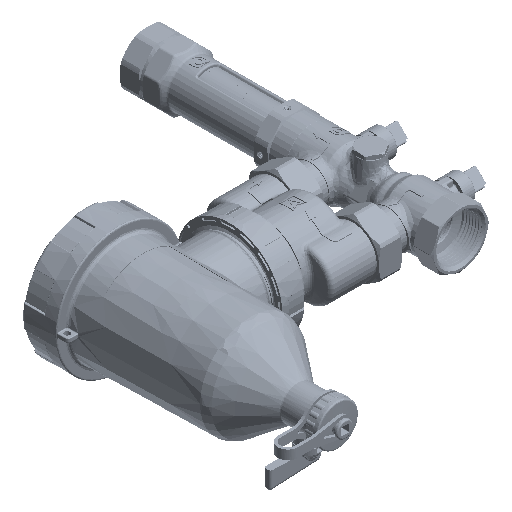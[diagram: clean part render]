
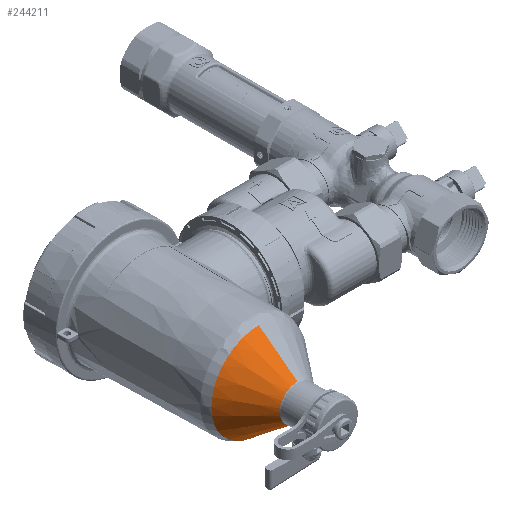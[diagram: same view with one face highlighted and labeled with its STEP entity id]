
A CAD part, isometric view. The second image highlights one B-rep face of the part: STEP entity #244211.
In plain terms, the highlighted conical face has half-angle 37.586 degrees and reference radius 33.325 mm.
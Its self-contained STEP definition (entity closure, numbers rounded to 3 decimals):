
#26550 = CARTESIAN_POINT ( 'NONE',  ( 0., -95.73, 0. ) ) ;
#26788 = ORIENTED_EDGE ( 'NONE', *, *, #421651, .T. ) ;
#29699 = CARTESIAN_POINT ( 'NONE',  ( 1.359, -93.652, 13.992 ) ) ;
#30503 = CARTESIAN_POINT ( 'NONE',  ( 12.458, -95.73, 0. ) ) ;
#33169 = CARTESIAN_POINT ( 'NONE',  ( 0., -68.62, 0. ) ) ;
#40386 = CARTESIAN_POINT ( 'NONE',  ( 4.533, -94.887, 12.297 ) ) ;
#44654 = CARTESIAN_POINT ( 'NONE',  ( 4.547, -94.896, 12.285 ) ) ;
#49025 = CARTESIAN_POINT ( 'NONE',  ( 4.555, -94.901, 12.278 ) ) ;
#50860 = EDGE_CURVE ( 'NONE', #116147, #99939, #206271, .T. ) ;
#60799 = CIRCLE ( 'NONE', #312018, 33.325 ) ;
#64501 = ORIENTED_EDGE ( 'NONE', *, *, #313948, .F. ) ;
#72141 = CARTESIAN_POINT ( 'NONE',  ( 33.325, -68.62, 0. ) ) ;
#75282 = CARTESIAN_POINT ( 'NONE',  ( 3.253, -94.204, 13.238 ) ) ;
#81725 = CARTESIAN_POINT ( 'NONE',  ( 2.232, -93.841, 13.734 ) ) ;
#83908 = DIRECTION ( 'NONE',  ( 0., 1., 0. ) ) ;
#94463 = AXIS2_PLACEMENT_3D ( 'NONE', #221034, #314983, #349880 ) ;
#95187 = CARTESIAN_POINT ( 'NONE',  ( 1.643, -93.704, 13.921 ) ) ;
#99720 = DIRECTION ( 'NONE',  ( -1., 0., 0. ) ) ;
#99939 = VERTEX_POINT ( 'NONE', #30503 ) ;
#101644 = CARTESIAN_POINT ( 'NONE',  ( 0.572, -93.555, 14.123 ) ) ;
#101849 = CARTESIAN_POINT ( 'NONE',  ( 0., -95.73, 0. ) ) ;
#104084 = EDGE_CURVE ( 'NONE', #306704, #427058, #231521, .T. ) ;
#108054 = CARTESIAN_POINT ( 'NONE',  ( 4.292, -94.736, 12.507 ) ) ;
#110214 = CARTESIAN_POINT ( 'NONE',  ( 2.749, -94.008, 13.507 ) ) ;
#114489 = CARTESIAN_POINT ( 'NONE',  ( 3.149, -94.161, 13.298 ) ) ;
#115591 = AXIS2_PLACEMENT_3D ( 'NONE', #26550, #188165, #118317 ) ;
#116147 = VERTEX_POINT ( 'NONE', #161101 ) ;
#118317 = DIRECTION ( 'NONE',  ( -1., 0., 0. ) ) ;
#122271 = CIRCLE ( 'NONE', #94463, 33.325 ) ;
#133631 = DIRECTION ( 'NONE',  ( 0., 1., 0. ) ) ;
#133751 = ORIENTED_EDGE ( 'NONE', *, *, #50860, .T. ) ;
#134429 = CARTESIAN_POINT ( 'NONE',  ( 1.002, -93.6, 14.063 ) ) ;
#135616 = EDGE_CURVE ( 'NONE', #233347, #305827, #353959, .T. ) ;
#135896 = B_SPLINE_CURVE_WITH_KNOTS ( 'NONE', 3,
 ( #328824, #400802, #101644, #134429, #368044, #29699, #394353, #202066, #95187, #228467, #195612, #429317, #81725, #274007, #110214, #376637, #374484, #114489, #210630, #206310, #372322, #75282, #311108, #241304, #276148, #138697, #108054, #247778, #409366, #208497, #40386, #44654, #49025, #407199, #341640, #343833 ),
 .UNSPECIFIED., .F., .F.,
 ( 4, 2, 2, 1, 1, 2, 2, 2, 2, 1, 1, 1, 2, 2, 2, 2, 1, 1, 1, 2, 2, 4 ),
 ( 0., 0.125, 0.188, 0.219, 0.234, 0.242, 0.25, 0.375, 0.438, 0.469, 0.484, 0.492, 0.496, 0.5, 0.625, 0.687, 0.719, 0.734, 0.742, 0.746, 0.75, 1. ),
 .UNSPECIFIED. ) ;
#138697 = CARTESIAN_POINT ( 'NONE',  ( 4.13, -94.64, 12.64 ) ) ;
#138795 = VECTOR ( 'NONE', #296973, 1000. ) ;
#160797 = ORIENTED_EDGE ( 'NONE', *, *, #135616, .F. ) ;
#161101 = CARTESIAN_POINT ( 'NONE',  ( 5.619, -95.73, 11.118 ) ) ;
#161573 = EDGE_CURVE ( 'NONE', #305827, #213150, #122271, .T. ) ;
#175153 = CARTESIAN_POINT ( 'NONE',  ( 0., -93.54, 14.143 ) ) ;
#188165 = DIRECTION ( 'NONE',  ( 0., 1., 0. ) ) ;
#195612 = CARTESIAN_POINT ( 'NONE',  ( 1.697, -93.715, 13.905 ) ) ;
#202066 = CARTESIAN_POINT ( 'NONE',  ( 1.589, -93.694, 13.935 ) ) ;
#206271 = CIRCLE ( 'NONE', #115591, 12.458 ) ;
#206310 = CARTESIAN_POINT ( 'NONE',  ( 3.228, -94.194, 13.253 ) ) ;
#208497 = CARTESIAN_POINT ( 'NONE',  ( 4.513, -94.874, 12.315 ) ) ;
#210630 = CARTESIAN_POINT ( 'NONE',  ( 3.204, -94.184, 13.267 ) ) ;
#213150 = VERTEX_POINT ( 'NONE', #72141 ) ;
#221034 = CARTESIAN_POINT ( 'NONE',  ( 0., -68.62, 0. ) ) ;
#222448 = FACE_OUTER_BOUND ( 'NONE', #349655, .T. ) ;
#228467 = CARTESIAN_POINT ( 'NONE',  ( 1.678, -93.711, 13.911 ) ) ;
#231521 = LINE ( 'NONE', #331847, #232095 ) ;
#232095 = VECTOR ( 'NONE', #268489, 1000. ) ;
#233347 = VERTEX_POINT ( 'NONE', #175153 ) ;
#241304 = CARTESIAN_POINT ( 'NONE',  ( 3.694, -94.404, 12.965 ) ) ;
#244211 = ADVANCED_FACE ( 'NONE', ( #222448 ), #288935, .T. ) ;
#246945 = ORIENTED_EDGE ( 'NONE', *, *, #104084, .T. ) ;
#247778 = CARTESIAN_POINT ( 'NONE',  ( 4.373, -94.785, 12.439 ) ) ;
#250494 = CIRCLE ( 'NONE', #368890, 12.458 ) ;
#252108 = DIRECTION ( 'NONE',  ( -1., 0., 0. ) ) ;
#261187 = AXIS2_PLACEMENT_3D ( 'NONE', #33169, #133631, #371526 ) ;
#268489 = DIRECTION ( 'NONE',  ( 0., 0.792, -0.61 ) ) ;
#274007 = CARTESIAN_POINT ( 'NONE',  ( 2.62, -93.964, 13.568 ) ) ;
#276148 = CARTESIAN_POINT ( 'NONE',  ( 4.021, -94.578, 12.725 ) ) ;
#276729 = CARTESIAN_POINT ( 'NONE',  ( 0., -68.62, 0. ) ) ;
#288935 = CONICAL_SURFACE ( 'NONE', #261187, 33.325, 0.656 ) ;
#296973 = DIRECTION ( 'NONE',  ( 0., 0.792, 0.61 ) ) ;
#305827 = VERTEX_POINT ( 'NONE', #345581 ) ;
#306704 = VERTEX_POINT ( 'NONE', #325799 ) ;
#311108 = CARTESIAN_POINT ( 'NONE',  ( 3.476, -94.3, 13.108 ) ) ;
#312018 = AXIS2_PLACEMENT_3D ( 'NONE', #276729, #83908, #252108 ) ;
#313948 = EDGE_CURVE ( 'NONE', #213150, #427058, #60799, .T. ) ;
#314983 = DIRECTION ( 'NONE',  ( 0., 1., 0. ) ) ;
#325799 = CARTESIAN_POINT ( 'NONE',  ( 0., -95.73, -12.458 ) ) ;
#328824 = CARTESIAN_POINT ( 'NONE',  ( 0., -93.54, 14.143 ) ) ;
#331847 = CARTESIAN_POINT ( 'NONE',  ( 0., -68.62, -33.325 ) ) ;
#341640 = CARTESIAN_POINT ( 'NONE',  ( 5.263, -95.403, 11.581 ) ) ;
#343833 = CARTESIAN_POINT ( 'NONE',  ( 5.619, -95.73, 11.118 ) ) ;
#344752 = ORIENTED_EDGE ( 'NONE', *, *, #357370, .T. ) ;
#345581 = CARTESIAN_POINT ( 'NONE',  ( 0., -68.62, 33.325 ) ) ;
#349655 = EDGE_LOOP ( 'NONE', ( #133751, #26788, #246945, #64501, #371987, #160797, #344752 ) ) ;
#349880 = DIRECTION ( 'NONE',  ( -1., 0., 0. ) ) ;
#353959 = LINE ( 'NONE', #421650, #138795 ) ;
#357370 = EDGE_CURVE ( 'NONE', #233347, #116147, #135896, .T. ) ;
#368044 = CARTESIAN_POINT ( 'NONE',  ( 1.145, -93.618, 14.037 ) ) ;
#368890 = AXIS2_PLACEMENT_3D ( 'NONE', #101849, #372529, #99720 ) ;
#371526 = DIRECTION ( 'NONE',  ( 0., 0., 1. ) ) ;
#371987 = ORIENTED_EDGE ( 'NONE', *, *, #161573, .F. ) ;
#372322 = CARTESIAN_POINT ( 'NONE',  ( 3.244, -94.2, 13.244 ) ) ;
#372529 = DIRECTION ( 'NONE',  ( 0., 1., 0. ) ) ;
#374484 = CARTESIAN_POINT ( 'NONE',  ( 3.037, -94.115, 13.36 ) ) ;
#376637 = CARTESIAN_POINT ( 'NONE',  ( 2.941, -94.079, 13.41 ) ) ;
#382552 = CARTESIAN_POINT ( 'NONE',  ( 0., -68.62, -33.325 ) ) ;
#394353 = CARTESIAN_POINT ( 'NONE',  ( 1.465, -93.67, 13.967 ) ) ;
#400802 = CARTESIAN_POINT ( 'NONE',  ( 0.285, -93.54, 14.143 ) ) ;
#407199 = CARTESIAN_POINT ( 'NONE',  ( 4.899, -95.128, 11.964 ) ) ;
#409366 = CARTESIAN_POINT ( 'NONE',  ( 4.467, -94.844, 12.357 ) ) ;
#421651 = EDGE_CURVE ( 'NONE', #99939, #306704, #250494, .T. ) ;
#421650 = CARTESIAN_POINT ( 'NONE',  ( 0., -68.62, 33.325 ) ) ;
#427058 = VERTEX_POINT ( 'NONE', #382552 ) ;
#429317 = CARTESIAN_POINT ( 'NONE',  ( 1.972, -93.773, 13.826 ) ) ;
